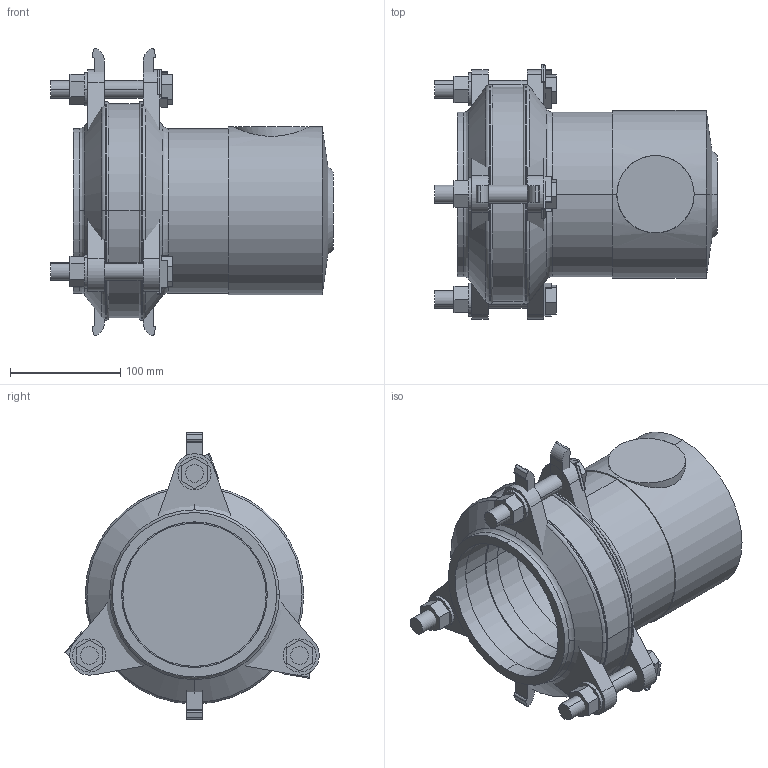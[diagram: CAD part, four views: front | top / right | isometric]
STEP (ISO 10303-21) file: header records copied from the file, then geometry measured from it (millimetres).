
FILE_DESCRIPTION(('STEP AP214'),'1');
FILE_NAME('HDA00044 DN 100.STP','2015-02-06T09:53:42',(' '),(' '),'Spatial InterOp 3D',' ',' ');
FILE_SCHEMA(('automotive_design'));
Length unit declared in the file: millimetre
Products named in the file (36): 3D-Objekt
Bounding box: 256 x 230.5 x 260 mm (x, y, z)
Volume: 1832746.1 mm3; surface area: 517094.8 mm2
Topology: 36 solids, 36 shells, 280 faces, 618 edges, 410 vertices
Faces by surface type: plane 183, cylinder 73, cone 12, torus 12
Entity records: 10957 total; most frequent: CARTESIAN_POINT 1475, DIRECTION 1450, ORIENTED_EDGE 1236, EDGE_CURVE 618, AXIS2_PLACEMENT_3D 518, LINE 414, VECTOR 414, VERTEX_POINT 410
